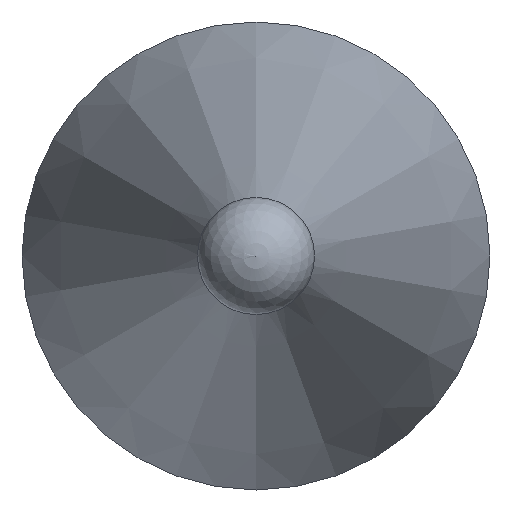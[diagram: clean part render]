
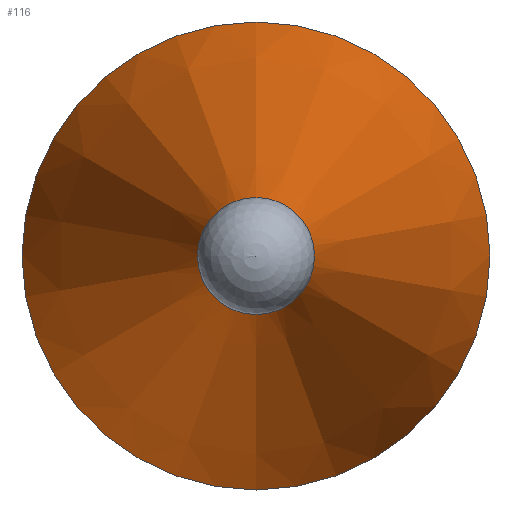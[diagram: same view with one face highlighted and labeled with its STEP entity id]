
A CAD part, left-side view. The second image highlights one B-rep face of the part: STEP entity #116.
In plain terms, the highlighted conical face has half-angle 15 degrees and reference radius 0.71 mm.
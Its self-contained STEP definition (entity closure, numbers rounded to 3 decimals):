
#100=CONICAL_SURFACE('',#182,0.71,15.);
#105=FACE_BOUND('',#130,.T.);
#106=FACE_BOUND('',#131,.T.);
#116=ADVANCED_FACE('',(#105,#106),#100,.T.);
#130=EDGE_LOOP('',(#144));
#131=EDGE_LOOP('',(#145));
#144=ORIENTED_EDGE('',*,*,#162,.T.);
#145=ORIENTED_EDGE('',*,*,#163,.F.);
#155=VERTEX_POINT('',#230);
#156=VERTEX_POINT('',#233);
#162=EDGE_CURVE('',#155,#155,#169,.T.);
#163=EDGE_CURVE('',#156,#156,#170,.T.);
#169=CIRCLE('',#179,3.);
#170=CIRCLE('',#181,0.71);
#179=AXIS2_PLACEMENT_3D('',#229,#200,#201);
#181=AXIS2_PLACEMENT_3D('',#232,#204,#205);
#182=AXIS2_PLACEMENT_3D('',#234,#206,#207);
#200=DIRECTION('',(-1.,0.,0.));
#201=DIRECTION('',(0.,0.,1.));
#204=DIRECTION('',(-1.,0.,0.));
#205=DIRECTION('',(0.,0.,1.));
#206=DIRECTION('',(1.,0.,0.));
#207=DIRECTION('',(0.,0.,-1.));
#229=CARTESIAN_POINT('',(7906.958,6103.288,0.));
#230=CARTESIAN_POINT('',(7906.958,6103.288,3.));
#232=CARTESIAN_POINT('',(7898.412,6103.288,0.));
#233=CARTESIAN_POINT('',(7898.412,6103.288,0.71));
#234=CARTESIAN_POINT('',(7898.412,6103.288,0.));
